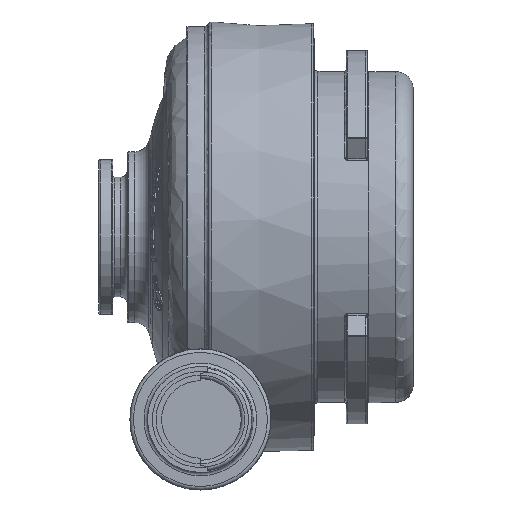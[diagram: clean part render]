
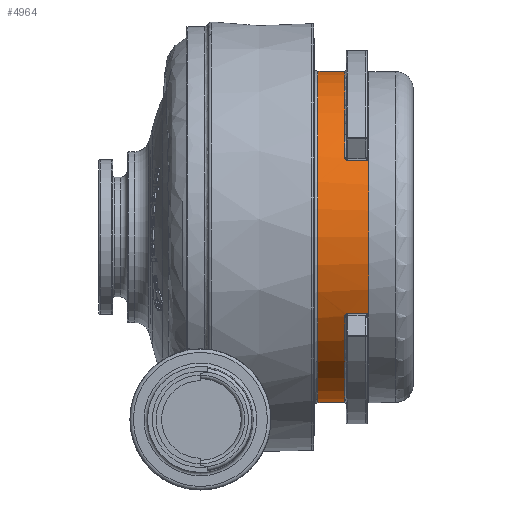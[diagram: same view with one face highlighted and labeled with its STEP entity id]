
A CAD part, front view. The second image highlights one B-rep face of the part: STEP entity #4964.
In plain terms, the highlighted cylindrical face has radius 23.5 mm (diameter 47 mm), a partial arc.
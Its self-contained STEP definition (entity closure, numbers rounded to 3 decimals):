
#3869=CYLINDRICAL_SURFACE('',#12002,23.5);
#4209=FACE_OUTER_BOUND('',#5676,.T.);
#4503=CIRCLE('',#11987,23.5);
#4512=CIRCLE('',#11999,23.5);
#4513=CIRCLE('',#12000,23.5);
#4514=CIRCLE('',#12001,23.5);
#4964=ADVANCED_FACE('',(#4209),#3869,.T.);
#5676=EDGE_LOOP('',(#8339,#8340,#8341,#8342,#8343,#8344,#8345,#8346,#8347,
#8348));
#6104=LINE('',#22977,#6480);
#6105=LINE('',#22979,#6481);
#6106=LINE('',#22988,#6482);
#6107=LINE('',#22992,#6483);
#6480=VECTOR('',#13282,1.);
#6481=VECTOR('',#13283,1.);
#6482=VECTOR('',#13286,1.);
#6483=VECTOR('',#13289,1.);
#8339=ORIENTED_EDGE('',*,*,#10692,.T.);
#8340=ORIENTED_EDGE('',*,*,#10672,.T.);
#8341=ORIENTED_EDGE('',*,*,#10693,.T.);
#8342=ORIENTED_EDGE('',*,*,#10694,.T.);
#8343=ORIENTED_EDGE('',*,*,#10695,.F.);
#8344=ORIENTED_EDGE('',*,*,#10696,.T.);
#8345=ORIENTED_EDGE('',*,*,#10697,.T.);
#8346=ORIENTED_EDGE('',*,*,#10698,.F.);
#8347=ORIENTED_EDGE('',*,*,#10699,.F.);
#8348=ORIENTED_EDGE('',*,*,#10700,.T.);
#9604=VERTEX_POINT('',#22924);
#9605=VERTEX_POINT('',#22926);
#9622=VERTEX_POINT('',#22978);
#9623=VERTEX_POINT('',#22980);
#9624=VERTEX_POINT('',#22985);
#9625=VERTEX_POINT('',#22987);
#9626=VERTEX_POINT('',#22989);
#9627=VERTEX_POINT('',#22991);
#9628=VERTEX_POINT('',#22993);
#9629=VERTEX_POINT('',#22995);
#10672=EDGE_CURVE('',#9605,#9604,#4503,.T.);
#10692=EDGE_CURVE('',#9622,#9605,#6104,.T.);
#10693=EDGE_CURVE('',#9604,#9623,#6105,.T.);
#10694=EDGE_CURVE('',#9623,#9624,#11501,.T.);
#10695=EDGE_CURVE('',#9625,#9624,#4512,.T.);
#10696=EDGE_CURVE('',#9625,#9626,#6106,.T.);
#10697=EDGE_CURVE('',#9626,#9627,#4513,.T.);
#10698=EDGE_CURVE('',#9628,#9627,#6107,.T.);
#10699=EDGE_CURVE('',#9629,#9628,#4514,.T.);
#10700=EDGE_CURVE('',#9629,#9622,#11502,.T.);
#11501=B_SPLINE_CURVE_WITH_KNOTS('',3,(#22981,#22982,#22983,#22984),
 .UNSPECIFIED.,.F.,.F.,(4,4),(0.,1.),.UNSPECIFIED.);
#11502=B_SPLINE_CURVE_WITH_KNOTS('',3,(#22996,#22997,#22998,#22999),
 .UNSPECIFIED.,.F.,.F.,(4,4),(0.,1.),.UNSPECIFIED.);
#11987=AXIS2_PLACEMENT_3D('',#22925,#13251,#13252);
#11999=AXIS2_PLACEMENT_3D('',#22986,#13284,#13285);
#12000=AXIS2_PLACEMENT_3D('',#22990,#13287,#13288);
#12001=AXIS2_PLACEMENT_3D('',#22994,#13290,#13291);
#12002=AXIS2_PLACEMENT_3D('',#23000,#13292,#13293);
#13251=DIRECTION('',(-1.,0.,0.));
#13252=DIRECTION('',(0.,0.,1.));
#13282=DIRECTION('',(1.,0.,0.));
#13283=DIRECTION('',(-1.,0.,0.));
#13284=DIRECTION('',(1.,0.,0.));
#13285=DIRECTION('',(0.,0.,1.));
#13286=DIRECTION('',(-1.,0.,0.));
#13287=DIRECTION('',(1.,0.,0.));
#13288=DIRECTION('',(0.,0.,1.));
#13289=DIRECTION('',(-1.,0.,0.));
#13290=DIRECTION('',(1.,0.,0.));
#13291=DIRECTION('',(0.,0.,-1.));
#13292=DIRECTION('',(-1.,0.,0.));
#13293=DIRECTION('',(0.,0.,1.));
#22924=CARTESIAN_POINT('',(11.399,-20.826,10.888));
#22925=CARTESIAN_POINT('',(11.399,0.,0.));
#22926=CARTESIAN_POINT('',(11.399,-20.826,-10.888));
#22977=CARTESIAN_POINT('',(4.113,-20.826,-10.888));
#22978=CARTESIAN_POINT('',(8.4,-20.826,-10.888));
#22979=CARTESIAN_POINT('',(4.113,-20.826,10.888));
#22980=CARTESIAN_POINT('',(8.4,-20.826,10.888));
#22981=CARTESIAN_POINT('',(8.4,-20.826,10.888));
#22982=CARTESIAN_POINT('',(8.171,-20.825,10.89));
#22983=CARTESIAN_POINT('',(8.,-20.725,11.081));
#22984=CARTESIAN_POINT('',(8.,-20.604,11.301));
#22985=CARTESIAN_POINT('',(8.,-20.604,11.301));
#22986=CARTESIAN_POINT('',(8.,0.,0.));
#22987=CARTESIAN_POINT('',(8.,-1.,23.479));
#22988=CARTESIAN_POINT('',(8.,-1.,23.479));
#22989=CARTESIAN_POINT('',(4.2,-1.,23.479));
#22990=CARTESIAN_POINT('',(4.2,0.,0.));
#22991=CARTESIAN_POINT('',(4.2,-1.,-23.479));
#22992=CARTESIAN_POINT('',(8.,-1.,-23.479));
#22993=CARTESIAN_POINT('',(8.,-1.,-23.479));
#22994=CARTESIAN_POINT('',(8.,0.,0.));
#22995=CARTESIAN_POINT('',(8.,-20.604,-11.301));
#22996=CARTESIAN_POINT('',(8.,-20.604,-11.301));
#22997=CARTESIAN_POINT('',(8.,-20.724,-11.082));
#22998=CARTESIAN_POINT('',(8.17,-20.825,-10.89));
#22999=CARTESIAN_POINT('',(8.4,-20.826,-10.888));
#23000=CARTESIAN_POINT('',(4.113,0.,0.));
